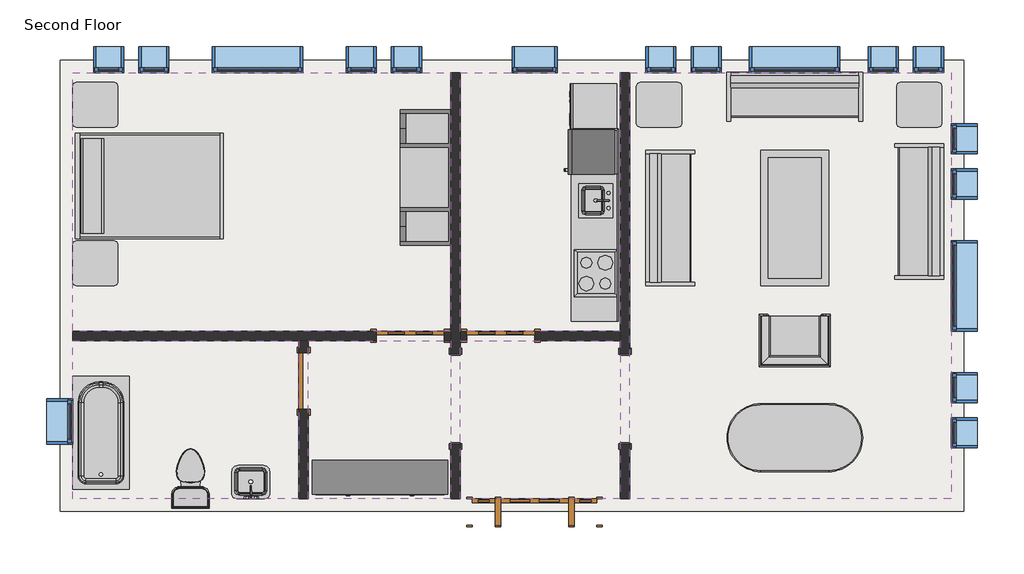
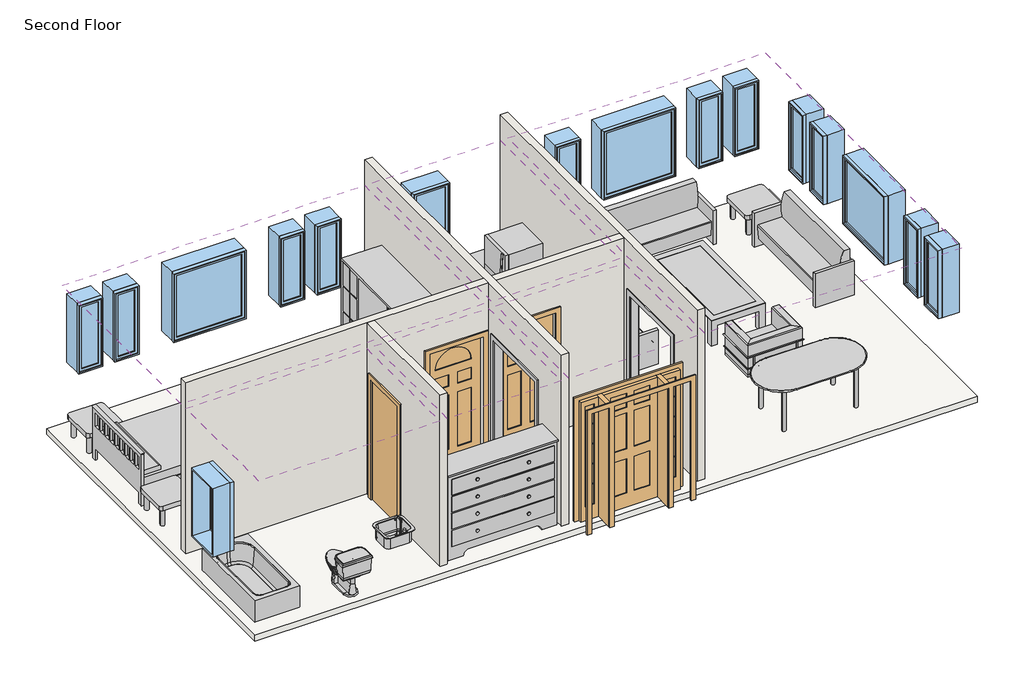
# One storey: 17 windows, 14 furniture elements, 6 coverings, 6 proxies, 5 walls, 4 doors, 4 flow terminals, 1 slab.
"""IFC4 building model written with IfcOpenShell, lengths in millimetres."""

from ifc_helpers import new_model, si_unit, frame, origin, place, context, project, spatial, polyline, outline, extrude, faceted_brep, transform, mapped, element, save
from components import proxy_dfcd9396, proxy_3c49123c, proxy_7a545507, proxy_f44482cc, proxy_ec3341c2, door_829da954, door_2e3b4da2, door_4d6c7550, door_dba5aa2e, flow_terminal_41332a36, flow_terminal_62a433f7, toilet_domestic_3d_toilet_domestic_3d_f7549cf7, toilet_domestic_3d_toilet_domestic_3d_183bbd19, tub_rectangular_3d_tub_rectangular_3d_15036965, furniture_096e7f55, chair_corbu_chair_corbu_2764bdef, furniture_6db689a5, furniture_7c473f12, furniture_cf0b6580, furniture_a4ffab56, furniture_cd93a443, furniture_2c34a4f9, furniture_3a588284, window_da97879f, window_d61ef850, window_60baf983, window_6eb97611

model = new_model("IFC4")

# Units and contexts
model_context = context("Model", 3, world=origin())
ifc_project = project(units=[si_unit("LENGTHUNIT", "METRE", prefix="MILLI")], contexts=[model_context])

# Site, building, storey
site = spatial("IfcSite", under=ifc_project)
building = spatial("IfcBuilding", under=site)
storey = spatial("IfcBuildingStorey", under=building, Name="Second Floor", Elevation=3048.0)

# Proxies
placement = place(None, origin())
proxy_shape = proxy_dfcd9396(model_context)
element("IfcBuildingElementProxy", 1, Name="Cook Top-4 Unit2 : 22\" x 20\"", ObjectType="Cook Top-4 Unit2 : 22\" x 20\"", at=placement, inside=storey, context=model_context, shape_type="MappedRepresentation", body=[
    mapped(proxy_shape, transform((-4167.1589563, 7568.5224391, 3048.0), x_axis=(0.0, 1.0000000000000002, 0.0), y_axis=(-1.0000000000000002, 0.0, 0.0), z_axis=(0.0, 0.0, 1.0))),
])
proxy_2_shape = proxy_3c49123c(model_context)
element("IfcBuildingElementProxy", 2, Name="Dishwasher : 24\" x 24\" x 34\"", ObjectType="Dishwasher : 24\" x 24\" x 34\"", at=placement, inside=storey, context=model_context, shape_type="MappedRepresentation", body=[
    mapped(proxy_2_shape, transform((-4459.0085211, 9434.1049706, 3048.0), x_axis=(0.0, 1.0000000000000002, 0.0), y_axis=(-1.0000000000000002, 0.0, 0.0), z_axis=(0.0, 0.0, 1.0))),
])
proxy_3_shape = proxy_7a545507(model_context)
element("IfcBuildingElementProxy", 3, Name="Kitchenette - Medium : 8'6\"", ObjectType="Kitchenette - Medium : 8'6\"", at=placement, inside=storey, context=model_context, shape_type="MappedRepresentation", body=[
    mapped(proxy_3_shape, transform((-3862.3589563, 8197.4847342, 3048.0), x_axis=(0.0, 1.0000000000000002, 0.0), y_axis=(-1.0000000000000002, 0.0, 0.0), z_axis=(0.0, 0.0, 1.0))),
])
proxy_4_shape = proxy_f44482cc(model_context)
element("IfcBuildingElementProxy", 4, Name="Opening-Cased : 48\" x 84\"", ObjectType="Opening-Cased : 48\" x 84\"", at=placement, inside=storey, context=model_context, shape_type="MappedRepresentation", body=[
    mapped(proxy_4_shape, transform((-3773.4589563, 5882.4203434, 3048.0), x_axis=(0.0, 1.0, 0.0), y_axis=(-1.0, 0.0, 0.0), z_axis=(0.0, 0.0, 1.0))),
])
element("IfcBuildingElementProxy", 5, Name="Opening-Cased : 48\" x 84\"", ObjectType="Opening-Cased : 48\" x 84\"", at=placement, inside=storey, context=model_context, shape_type="MappedRepresentation", body=[
    mapped(proxy_4_shape, transform((-6059.4589563, 5866.04303, 3048.0), x_axis=(0.0, -1.0, 0.0), y_axis=(1.0, 0.0, 0.0), z_axis=(0.0, 0.0, 1.0))),
])
proxy_5_shape = proxy_ec3341c2(model_context)
element("IfcBuildingElementProxy", 6, Name="Refrigerator : 24\" x 25\" LH", ObjectType="Refrigerator : 24\" x 25\" LH", at=placement, inside=storey, context=model_context, shape_type="MappedRepresentation", body=[
    mapped(proxy_5_shape, transform((-4212.8079278, 9200.4724391, 3048.0), x_axis=(0.0, 1.0000000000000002, 0.0), y_axis=(-1.0000000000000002, 0.0, 0.0), z_axis=(0.0, 0.0, 1.0))),
])

# Coverings
element("IfcCovering", 7, ObjectType="GWB on Mtl. Stud", at=placement, inside=storey, context=model_context, shape_type="SweptSolid", body=[
    extrude(outline(polyline([(-11217.2464563, 10270.0191867), (-6122.9589563, 10270.0191867), (-6122.9589563, 6787.0441867), (-11217.2464563, 6787.0441867), (-11217.2464563, 10270.0191867)])), frame((0.0, 0.0, 5638.8), z_axis=(0.0, 0.0, 1.0), x_axis=(1.0, 0.0, 0.0)), (0.0, 0.0, 1.0), 107.95),
])
element("IfcCovering", 8, ObjectType="GWB on Mtl. Stud", at=placement, inside=storey, context=model_context, shape_type="SweptSolid", body=[
    extrude(outline(polyline([(-5995.9589563, 6787.0441867), (-5995.9589563, 10270.0191867), (-3836.9589563, 10270.0191867), (-3836.9589563, 6787.0441867), (-5995.9589563, 6787.0441867)])), frame((0.0, 0.0, 5638.8), z_axis=(0.0, 0.0, 1.0), x_axis=(1.0, 0.0, 0.0)), (0.0, 0.0, 1.0), 107.95),
])
element("IfcCovering", 9, ObjectType="GWB on Mtl. Stud", at=placement, inside=storey, context=model_context, shape_type="SweptSolid", body=[
    extrude(outline(polyline([(-3709.9589563, 4526.4441867), (-3709.9589563, 10270.0191867), (622.3285437, 10270.0191867), (622.3285437, 4526.4441867), (-3709.9589563, 4526.4441867)])), frame((0.0, 0.0, 5638.8), z_axis=(0.0, 0.0, 1.0), x_axis=(1.0, 0.0, 0.0)), (0.0, 0.0, 1.0), 107.95),
])
element("IfcCovering", 10, ObjectType="GWB on Mtl. Stud", at=placement, inside=storey, context=model_context, shape_type="SweptSolid", body=[
    extrude(outline(polyline([(-3836.9589563, 4526.4441867), (-5995.9589563, 4526.4441867), (-5995.9589563, 6660.0441867), (-3836.9589563, 6660.0441867), (-3836.9589563, 4526.4441867)])), frame((0.0, 0.0, 5638.8), z_axis=(0.0, 0.0, 1.0), x_axis=(1.0, 0.0, 0.0)), (0.0, 0.0, 1.0), 107.95),
])
element("IfcCovering", 11, ObjectType="GWB on Mtl. Stud", at=placement, inside=storey, context=model_context, shape_type="SweptSolid", body=[
    extrude(outline(polyline([(-8169.2464563, 6660.0441867), (-8169.2464563, 4526.4441867), (-11217.2464563, 4526.4441867), (-11217.2464563, 6660.0441867), (-8169.2464563, 6660.0441867)])), frame((0.0, 0.0, 5638.8), z_axis=(0.0, 0.0, 1.0), x_axis=(1.0, 0.0, 0.0)), (0.0, 0.0, 1.0), 107.95),
])
element("IfcCovering", 12, ObjectType="GWB on Mtl. Stud", at=placement, inside=storey, context=model_context, shape_type="SweptSolid", body=[
    extrude(outline(polyline([(-6122.9589563, 4526.4441867), (-8042.2464563, 4526.4441867), (-8042.2464563, 6660.0441867), (-6122.9589563, 6660.0441867), (-6122.9589563, 4526.4441867)])), frame((0.0, 0.0, 5638.8), z_axis=(0.0, 0.0, 1.0), x_axis=(1.0, 0.0, 0.0)), (0.0, 0.0, 1.0), 107.95),
])

# Doors
door_shape = door_829da954(model_context)
element("IfcDoor", 13, ObjectType="Single-Decorative 2 : 36\" x 84\"", at=placement, inside=storey, context=model_context, shape_type="MappedRepresentation", body=[
    mapped(door_shape, transform((-5449.8589563, 6723.5441867, 3048.0), x_axis=(-1.0, 0.0, 0.0), y_axis=(0.0, -1.0, 0.0), z_axis=(0.0, 0.0, 1.0))),
])
door_2_shape = door_2e3b4da2(model_context)
element("IfcDoor", 14, ObjectType="Single-Decorative 2 : 36\" x 84\"", at=placement, inside=storey, context=model_context, shape_type="MappedRepresentation", body=[
    mapped(door_2_shape, transform((-6669.0589563, 6723.5441867, 3048.0), x_axis=(1.0, 0.0, 0.0), y_axis=(0.0, 1.0, 0.0), z_axis=(0.0, 0.0, 1.0))),
])
door_3_shape = door_4d6c7550(model_context)
element("IfcDoor", 15, ObjectType="Single-Flush : 30\" x 84\"", at=placement, inside=storey, context=model_context, shape_type="MappedRepresentation", body=[
    mapped(door_3_shape, transform((-8105.7464563, 6113.9441867, 3048.0), x_axis=(0.0, 1.0, 0.0), y_axis=(-1.0, 0.0, 0.0), z_axis=(0.0, 0.0, 1.0))),
])
door_4_shape = door_dba5aa2e(model_context)
element("IfcDoor", 16, ObjectType="Single-Raised Panel with Sidelights : 36\" x 84\"", at=placement, inside=storey, context=model_context, shape_type="MappedRepresentation", body=[
    mapped(door_4_shape, transform((-4992.6589563, 4350.2316867, 3048.0), x_axis=(-1.0, 0.0, 0.0), y_axis=(0.0, -1.0, 0.0), z_axis=(0.0, 0.0, 1.0))),
])

# Flow terminals
flow_terminal_shape = flow_terminal_41332a36(model_context)
element("IfcFlowTerminal", 17, ObjectType="Sink Kitchen-Island : 18\" x 18\"", at=placement, inside=storey, context=model_context, shape_type="MappedRepresentation", body=[
    mapped(flow_terminal_shape, transform((-4169.5043574, 8530.7331986, 3033.6), x_axis=(0.0, 1.0000000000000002, 0.0), y_axis=(-1.0000000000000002, 0.0, 0.0), z_axis=(0.0, 0.0, 1.0))),
])
flow_terminal_2_shape = flow_terminal_62a433f7(model_context)
element("IfcFlowTerminal", 18, ObjectType="Sink Vanity-Square : 20\" x 18\"", at=placement, inside=storey, context=model_context, shape_type="MappedRepresentation", body=[
    mapped(flow_terminal_2_shape, transform((-8801.2572158, 4706.5895878, 3048.0), x_axis=(-1.0, 0.0, 0.0), y_axis=(0.0, -1.0, 0.0), z_axis=(0.0, 0.0, 1.0))),
])
toilet_domestic_3d_toilet_domestic_3d_shape = toilet_domestic_3d_toilet_domestic_3d_f7549cf7(model_context)
toilet_domestic_3d_toilet_domestic_3d_2_shape = toilet_domestic_3d_toilet_domestic_3d_183bbd19(model_context)
element("IfcFlowTerminal", 19, ObjectType="Toilet-Domestic-3D : Toilet-Domestic-3D", at=placement, inside=storey, context=model_context, shape_type="MappedRepresentation", body=[
    mapped(toilet_domestic_3d_toilet_domestic_3d_shape, transform((-9629.7464563, 4894.7441867, 3048.0), x_axis=(-1.0, 0.0, 0.0), y_axis=(0.0, -1.0, 0.0), z_axis=(0.0, 0.0, 1.0))),
    mapped(toilet_domestic_3d_toilet_domestic_3d_2_shape, transform((-9629.7464563, 4894.7441867, 3048.0), x_axis=(-1.0, 0.0, 0.0), y_axis=(0.0, -1.0, 0.0), z_axis=(0.0, 0.0, 1.0))),
])
tub_rectangular_3d_tub_rectangular_3d_shape = tub_rectangular_3d_tub_rectangular_3d_15036965(model_context)
element("IfcFlowTerminal", 20, ObjectType="Tub-Rectangular-3D : Tub-Rectangular-3D", at=placement, inside=storey, context=model_context, shape_type="MappedRepresentation", body=[
    mapped(tub_rectangular_3d_tub_rectangular_3d_shape, transform((-11393.4589563, 5765.6346554, 3048.0), x_axis=(0.0, 1.0, 0.0), y_axis=(-1.0, 0.0, 0.0), z_axis=(0.0, 0.0, 1.0))),
])

# Furniture
furniture_shape = furniture_096e7f55(model_context)
element("IfcFurniture", 21, ObjectType="Bed-Shaker : Double 56\" x 78\"", at=placement, inside=storey, context=model_context, shape_type="MappedRepresentation", body=[
    mapped(furniture_shape, transform((-11172.0857802, 8763.4816867, 3048.0), x_axis=(0.0, 1.0, 0.0), y_axis=(-1.0, 0.0, 0.0), z_axis=(0.0, 0.0, 1.0))),
])
chair_corbu_chair_corbu_shape = chair_corbu_chair_corbu_2764bdef(model_context)
element("IfcFurniture", 22, ObjectType="Chair-Corbu : Chair-Corbu", at=placement, inside=storey, context=model_context, shape_type="MappedRepresentation", body=[
    mapped(chair_corbu_chair_corbu_shape, transform((-914.0851858, 7126.8212359, 3048.0), x_axis=(-1.0, 0.0, 0.0), y_axis=(0.0, -1.0, 0.0), z_axis=(0.0, 0.0, 1.0))),
])
furniture_2_shape = furniture_6db689a5(model_context)
element("IfcFurniture", 23, ObjectType="Counter Top w Sink Hole : 24\" Depth", at=placement, inside=storey, context=model_context, shape_type="MappedRepresentation", body=[
    mapped(furniture_2_shape, transform((-3862.3589563, 8121.2847342, 3033.6), x_axis=(0.0, 1.0000000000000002, 0.0), y_axis=(-1.0000000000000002, 0.0, 0.0), z_axis=(0.0, 0.0, 1.0))),
])
furniture_3_shape = furniture_7c473f12(model_context)
element("IfcFurniture", 24, ObjectType="Dresser : 72\" x 60\" x 18\"", at=placement, inside=storey, context=model_context, shape_type="MappedRepresentation", body=[
    mapped(furniture_3_shape, transform((-6806.2656965, 5181.7071408, 3048.0), x_axis=(1.0, 0.0, 0.0), y_axis=(0.0, 1.0, 0.0), z_axis=(0.0, 0.0, 1.0))),
])
furniture_4_shape = furniture_cf0b6580(model_context)
element("IfcFurniture", 25, ObjectType="Entertainment Center : 72\" x 72\" x 24\"", at=placement, inside=storey, context=model_context, shape_type="MappedRepresentation", body=[
    mapped(furniture_4_shape, transform((-6021.3589563, 8857.1441867, 3048.0), x_axis=(0.0, -1.0, 0.0), y_axis=(1.0, 0.0, 0.0), z_axis=(0.0, 0.0, 1.0))),
])
furniture_5_shape = furniture_a4ffab56(model_context)
element("IfcFurniture", 26, ObjectType="Sofa : 72\"", at=placement, inside=storey, context=model_context, shape_type="MappedRepresentation", body=[
    mapped(furniture_5_shape, transform((-3017.704858, 8242.2611949, 3048.0), x_axis=(0.0, 1.0, 0.0), y_axis=(-1.0, 0.0, 0.0), z_axis=(0.0, 0.0, 1.0))),
])
element("IfcFurniture", 27, ObjectType="Sofa : 72\"", at=placement, inside=storey, context=model_context, shape_type="MappedRepresentation", body=[
    mapped(furniture_5_shape, transform((-1557.8294481, 9801.5748071, 3048.0), x_axis=(1.0, 0.0, 0.0), y_axis=(0.0, 1.0, 0.0), z_axis=(0.0, 0.0, 1.0))),
])
element("IfcFurniture", 28, ObjectType="Sofa : 72\"", at=placement, inside=storey, context=model_context, shape_type="MappedRepresentation", body=[
    mapped(furniture_5_shape, transform((42.7869453, 8470.3146785, 3048.0), x_axis=(0.0, -1.0, 0.0), y_axis=(1.0, 0.0, 0.0), z_axis=(0.0, 0.0, 1.0))),
])
furniture_6_shape = furniture_cd93a443(model_context)
element("IfcFurniture", 29, ObjectType="Table-Coffee : 36\" x 72\" x 18\"", at=placement, inside=storey, context=model_context, shape_type="MappedRepresentation", body=[
    mapped(furniture_6_shape, transform((-1392.2478785, 8294.36592, 3048.0), x_axis=(0.0, 1.0, 0.0), y_axis=(-1.0, 0.0, 0.0), z_axis=(0.0, 0.0, 1.0))),
])
furniture_7_shape = furniture_2c34a4f9(model_context)
element("IfcFurniture", 30, ObjectType="Table-Dining Oval : 36\" x 72\"", at=placement, inside=storey, context=model_context, shape_type="MappedRepresentation", body=[
    mapped(furniture_7_shape, transform((-1085.6392842, 5710.0425473, 3048.0), x_axis=(1.0, 0.0, 0.0), y_axis=(0.0, 1.0, 0.0), z_axis=(0.0, 0.0, 1.0))),
])
furniture_8_shape = furniture_3a588284(model_context)
element("IfcFurniture", 31, ObjectType="Table-End : 24\" x 24\"", at=placement, inside=storey, context=model_context, shape_type="MappedRepresentation", body=[
    mapped(furniture_8_shape, transform((-119.5925866, 9684.2316867, 3048.0), x_axis=(1.0, 0.0, 0.0), y_axis=(0.0, 1.0, 0.0), z_axis=(0.0, 0.0, 1.0))),
])
element("IfcFurniture", 32, ObjectType="Table-End : 24\" x 24\"", at=placement, inside=storey, context=model_context, shape_type="MappedRepresentation", body=[
    mapped(furniture_8_shape, transform((-11220.9800866, 7550.6316867, 3048.0), x_axis=(1.0, 0.0, 0.0), y_axis=(0.0, 1.0, 0.0), z_axis=(0.0, 0.0, 1.0))),
])
element("IfcFurniture", 33, ObjectType="Table-End : 24\" x 24\"", at=placement, inside=storey, context=model_context, shape_type="MappedRepresentation", body=[
    mapped(furniture_8_shape, transform((-11220.9800866, 9684.2316867, 3048.0), x_axis=(1.0, 0.0, 0.0), y_axis=(0.0, 1.0, 0.0), z_axis=(0.0, 0.0, 1.0))),
])
element("IfcFurniture", 34, ObjectType="Table-End : 24\" x 24\"", at=placement, inside=storey, context=model_context, shape_type="MappedRepresentation", body=[
    mapped(furniture_8_shape, transform((-3624.7925866, 9684.2316867, 3048.0), x_axis=(1.0, 0.0, 0.0), y_axis=(0.0, 1.0, 0.0), z_axis=(0.0, 0.0, 1.0))),
])

# Slab
element("IfcSlab", 35, ObjectType="LW Concrete on Metal Deck", at=placement, inside=storey, context=model_context, shape_type="SweptSolid", body=[
    extrude(outline(polyline([(787.4285437, 10435.1191867), (787.4285437, 4361.3441867), (-11382.3464563, 4361.3441867), (-11382.3464563, 10435.1191867), (787.4285437, 10435.1191867)])), frame((0.0, 0.0, 2943.225), z_axis=(0.0, 0.0, 1.0), x_axis=(1.0, 0.0, 0.0)), (0.0, 0.0, 1.0), 104.775),
])

# Walls
element("IfcWall", 36, ObjectType="Interior - 5\" Partition (2-hr)", at=placement, inside=storey, context=model_context, shape_type="Brep", body=[
    faceted_brep([(-3836.9589563, 10270.0191867, 3048.0), (-3836.9589563, 6787.0441867, 3048.0), (-3836.9589563, 6660.0441867, 3048.0), (-3836.9589563, 6483.8316867, 3048.0), (-3836.9589563, 6483.8316867, 5181.6), (-3836.9589563, 5264.6316867, 5181.6), (-3836.9589563, 5264.6316867, 3048.0), (-3836.9589563, 4526.4441867, 3048.0), (-3836.9589563, 4526.4441867, 6096.0), (-3836.9589563, 6660.0441867, 6096.0), (-3836.9589563, 6787.0441867, 6096.0), (-3836.9589563, 10270.0191867, 6096.0), (-3709.9589563, 6483.8316867, 5181.6), (-3709.9589563, 6483.8316867, 3048.0), (-3709.9589563, 10270.0191867, 3048.0), (-3709.9589563, 10270.0191867, 6096.0), (-3709.9589563, 4526.4441867, 6096.0), (-3709.9589563, 4526.4441867, 3048.0), (-3709.9589563, 5264.6316867, 3048.0), (-3709.9589563, 5264.6316867, 5181.6)], [[[0, 1, 2, 3, 4, 5, 6, 7, 8, 9, 10, 11]], [[12, 13, 14, 15, 16, 17, 18, 19]], [[14, 13, 3, 2, 1, 0]], [[18, 17, 7, 6]], [[11, 10, 9, 8, 16, 15]], [[0, 11, 15, 14]], [[8, 7, 17, 16]], [[6, 5, 19, 18]], [[4, 3, 13, 12]], [[5, 4, 12, 19]]]),
])
element("IfcWall", 37, ObjectType="Interior - 5\" Partition (2-hr)", at=placement, inside=storey, context=model_context, shape_type="Brep", body=[
    faceted_brep([(-6122.9589563, 5264.6316867, 5181.6), (-6122.9589563, 5264.6316867, 3048.0), (-6122.9589563, 4526.4441867, 3048.0), (-6122.9589563, 4526.4441867, 6096.0), (-6122.9589563, 6660.0441867, 6096.0), (-6122.9589563, 6787.0441867, 6096.0), (-6122.9589563, 10270.0191867, 6096.0), (-6122.9589563, 10270.0191867, 3048.0), (-6122.9589563, 6787.0441867, 3048.0), (-6122.9589563, 6660.0441867, 3048.0), (-6122.9589563, 6483.8316867, 3048.0), (-6122.9589563, 6483.8316867, 5181.6), (-5995.9589563, 4526.4441867, 3048.0), (-5995.9589563, 5264.6316867, 3048.0), (-5995.9589563, 5264.6316867, 5181.6), (-5995.9589563, 6483.8316867, 5181.6), (-5995.9589563, 6483.8316867, 3048.0), (-5995.9589563, 6660.0441867, 3048.0), (-5995.9589563, 6787.0441867, 3048.0), (-5995.9589563, 10270.0191867, 3048.0), (-5995.9589563, 10270.0191867, 6096.0), (-5995.9589563, 6787.0441867, 6096.0), (-5995.9589563, 6660.0441867, 6096.0), (-5995.9589563, 4526.4441867, 6096.0)], [[[0, 1, 2, 3, 4, 5, 6, 7, 8, 9, 10, 11]], [[12, 13, 14, 15, 16, 17, 18, 19, 20, 21, 22, 23]], [[2, 1, 13, 12]], [[10, 9, 8, 7, 19, 18, 17, 16]], [[6, 5, 4, 3, 23, 22, 21, 20]], [[7, 6, 20, 19]], [[3, 2, 12, 23]], [[16, 15, 11, 10]], [[14, 13, 1, 0]], [[15, 14, 0, 11]]]),
])
element("IfcWall", 38, ObjectType="Interior - 5\" Partition (2-hr)", at=placement, inside=storey, context=model_context, shape_type="Brep", body=[
    faceted_brep([(-6211.8589563, 6660.0441867, 5181.6), (-6211.8589563, 6660.0441867, 3048.0), (-6122.9589563, 6660.0441867, 3048.0), (-6122.9589563, 6660.0441867, 6096.0), (-8042.2464563, 6660.0441867, 6096.0), (-8169.2464563, 6660.0441867, 6096.0), (-11217.2464563, 6660.0441867, 6096.0), (-11217.2464563, 6660.0441867, 3048.0), (-8169.2464563, 6660.0441867, 3048.0), (-8042.2464563, 6660.0441867, 3048.0), (-7126.2589563, 6660.0441867, 3048.0), (-7126.2589563, 6660.0441867, 5181.6), (-6122.9589563, 6787.0441867, 3048.0), (-6211.8589563, 6787.0441867, 3048.0), (-6211.8589563, 6787.0441867, 5181.6), (-7126.2589563, 6787.0441867, 5181.6), (-7126.2589563, 6787.0441867, 3048.0), (-11217.2464563, 6787.0441867, 3048.0), (-11217.2464563, 6787.0441867, 6096.0), (-6122.9589563, 6787.0441867, 6096.0)], [[[0, 1, 2, 3, 4, 5, 6, 7, 8, 9, 10, 11]], [[12, 13, 14, 15, 16, 17, 18, 19]], [[2, 1, 13, 12]], [[10, 9, 8, 7, 17, 16]], [[6, 5, 4, 3, 19, 18]], [[3, 2, 12, 19]], [[7, 6, 18, 17]], [[14, 13, 1, 0]], [[15, 14, 0, 11]], [[16, 15, 11, 10]]]),
])
element("IfcWall", 39, ObjectType="Interior - 5\" Partition (2-hr)", at=placement, inside=storey, context=model_context, shape_type="SweptSolid", body=[
    extrude(outline(polyline([(6660.0441867, 3048.0), (6494.9441867, 3048.0), (6494.9441867, 5181.6), (5732.9441867, 5181.6), (5732.9441867, 3048.0), (4526.4441867, 3048.0), (4526.4441867, 6096.0), (6660.0441867, 6096.0), (6660.0441867, 3048.0)])), frame((-8169.2464563, 0.0, 0.0), z_axis=(1.0, 0.0, 0.0), x_axis=(0.0, 1.0, 0.0)), (0.0, 0.0, 1.0), 127.0),
])
element("IfcWall", 40, ObjectType="Interior - 5\" Partition (2-hr)", at=placement, inside=storey, context=model_context, shape_type="SweptSolid", body=[
    extrude(outline(polyline([(3048.0, -5995.9589563), (3048.0, -5907.0589563), (5181.6, -5907.0589563), (5181.6, -4992.6589563), (3048.0, -4992.6589563), (3048.0, -3836.9589563), (6096.0, -3836.9589563), (6096.0, -5995.9589563), (3048.0, -5995.9589563)])), frame((0.0, 6660.0441867, 0.0), z_axis=(0.0, 1.0, 0.0), x_axis=(0.0, 0.0, 1.0)), (0.0, 0.0, 1.0), 127.0),
])

# Windows
window_shape = window_da97879f(model_context)
element("IfcWindow", 41, ObjectType="Fixed : 16\" x 48\"", at=placement, inside=storey, context=model_context, shape_type="MappedRepresentation", body=[
    mapped(window_shape, transform((-10771.1589563, 10446.2316867, 3048.0), x_axis=(-1.0, 0.0, 0.0), y_axis=(0.0, -1.0, 0.0), z_axis=(0.0, 0.0, 1.0))),
])
element("IfcWindow", 42, ObjectType="Fixed : 16\" x 48\"", at=placement, inside=storey, context=model_context, shape_type="MappedRepresentation", body=[
    mapped(window_shape, transform((-10161.5589563, 10446.2316867, 3048.0), x_axis=(-1.0, 0.0, 0.0), y_axis=(0.0, -1.0, 0.0), z_axis=(0.0, 0.0, 1.0))),
])
element("IfcWindow", 43, ObjectType="Fixed : 16\" x 48\"", at=placement, inside=storey, context=model_context, shape_type="MappedRepresentation", body=[
    mapped(window_shape, transform((-3328.9589563, 10446.2316867, 3048.0), x_axis=(-1.0, 0.0, 0.0), y_axis=(0.0, -1.0, 0.0), z_axis=(0.0, 0.0, 1.0))),
])
element("IfcWindow", 44, ObjectType="Fixed : 16\" x 48\"", at=placement, inside=storey, context=model_context, shape_type="MappedRepresentation", body=[
    mapped(window_shape, transform((-2719.3589563, 10446.2316867, 3048.0), x_axis=(-1.0, 0.0, 0.0), y_axis=(0.0, -1.0, 0.0), z_axis=(0.0, 0.0, 1.0))),
])
element("IfcWindow", 45, ObjectType="Fixed : 16\" x 48\"", at=placement, inside=storey, context=model_context, shape_type="MappedRepresentation", body=[
    mapped(window_shape, transform((798.5410437, 9417.5316867, 3048.0), x_axis=(0.0, 1.0, 0.0), y_axis=(-1.0, 0.0, 0.0), z_axis=(0.0, 0.0, 1.0))),
])
element("IfcWindow", 46, ObjectType="Fixed : 16\" x 48\"", at=placement, inside=storey, context=model_context, shape_type="MappedRepresentation", body=[
    mapped(window_shape, transform((798.5410437, 8807.9316867, 3048.0), x_axis=(0.0, 1.0, 0.0), y_axis=(-1.0, 0.0, 0.0), z_axis=(0.0, 0.0, 1.0))),
])
window_2_shape = window_d61ef850(model_context)
element("IfcWindow", 47, ObjectType="Fixed : 16\" x 48\"", at=placement, inside=storey, context=model_context, shape_type="MappedRepresentation", body=[
    mapped(window_2_shape, transform((-6681.7589563, 10446.2316867, 3048.0), x_axis=(1.0, 0.0, 0.0), y_axis=(0.0, 1.0, 0.0), z_axis=(0.0, 0.0, 1.0))),
])
element("IfcWindow", 48, ObjectType="Fixed : 16\" x 48\"", at=placement, inside=storey, context=model_context, shape_type="MappedRepresentation", body=[
    mapped(window_2_shape, transform((-7291.3589563, 10446.2316867, 3048.0), x_axis=(1.0, 0.0, 0.0), y_axis=(0.0, 1.0, 0.0), z_axis=(0.0, 0.0, 1.0))),
])
element("IfcWindow", 49, ObjectType="Fixed : 16\" x 48\"", at=placement, inside=storey, context=model_context, shape_type="MappedRepresentation", body=[
    mapped(window_2_shape, transform((354.0410437, 10446.2316867, 3048.0), x_axis=(1.0, 0.0, 0.0), y_axis=(0.0, 1.0, 0.0), z_axis=(0.0, 0.0, 1.0))),
])
element("IfcWindow", 50, ObjectType="Fixed : 16\" x 48\"", at=placement, inside=storey, context=model_context, shape_type="MappedRepresentation", body=[
    mapped(window_2_shape, transform((-255.5589563, 10446.2316867, 3048.0), x_axis=(1.0, 0.0, 0.0), y_axis=(0.0, 1.0, 0.0), z_axis=(0.0, 0.0, 1.0))),
])
element("IfcWindow", 51, ObjectType="Fixed : 16\" x 48\"", at=placement, inside=storey, context=model_context, shape_type="MappedRepresentation", body=[
    mapped(window_2_shape, transform((798.5410437, 5378.9316867, 3048.0), x_axis=(0.0, -1.0, 0.0), y_axis=(1.0, 0.0, 0.0), z_axis=(0.0, 0.0, 1.0))),
])
element("IfcWindow", 52, ObjectType="Fixed : 16\" x 48\"", at=placement, inside=storey, context=model_context, shape_type="MappedRepresentation", body=[
    mapped(window_2_shape, transform((798.5410437, 5988.5316867, 3048.0), x_axis=(0.0, -1.0, 0.0), y_axis=(1.0, 0.0, 0.0), z_axis=(0.0, 0.0, 1.0))),
])
window_3_shape = window_60baf983(model_context)
element("IfcWindow", 53, ObjectType="Fixed : 24\" x 48\"", at=placement, inside=storey, context=model_context, shape_type="MappedRepresentation", body=[
    mapped(window_3_shape, transform((-5030.7589563, 10446.2316867, 3048.0), x_axis=(-1.0, 0.0, 0.0), y_axis=(0.0, -1.0, 0.0), z_axis=(0.0, 0.0, 1.0))),
])
element("IfcWindow", 54, ObjectType="Fixed : 24\" x 48\"", at=placement, inside=storey, context=model_context, shape_type="MappedRepresentation", body=[
    mapped(window_3_shape, transform((-11393.4589563, 5531.3316867, 3048.0), x_axis=(0.0, -1.0, 0.0), y_axis=(1.0, 0.0, 0.0), z_axis=(0.0, 0.0, 1.0))),
])
window_4_shape = window_6eb97611(model_context)
element("IfcWindow", 55, ObjectType="Fixed : 48\" x 48\"", at=placement, inside=storey, context=model_context, shape_type="MappedRepresentation", body=[
    mapped(window_4_shape, transform((-8764.5589563, 10446.2316867, 3048.0), x_axis=(-1.0, 0.0, 0.0), y_axis=(0.0, -1.0, 0.0), z_axis=(0.0, 0.0, 1.0))),
])
element("IfcWindow", 56, ObjectType="Fixed : 48\" x 48\"", at=placement, inside=storey, context=model_context, shape_type="MappedRepresentation", body=[
    mapped(window_4_shape, transform((-1525.5589563, 10446.2316867, 3048.0), x_axis=(-1.0, 0.0, 0.0), y_axis=(0.0, -1.0, 0.0), z_axis=(0.0, 0.0, 1.0))),
])
element("IfcWindow", 57, ObjectType="Fixed : 48\" x 48\"", at=placement, inside=storey, context=model_context, shape_type="MappedRepresentation", body=[
    mapped(window_4_shape, transform((798.5410437, 7436.3316867, 3048.0), x_axis=(0.0, 1.0, 0.0), y_axis=(-1.0, 0.0, 0.0), z_axis=(0.0, 0.0, 1.0))),
])

save(model, "model.ifc")
